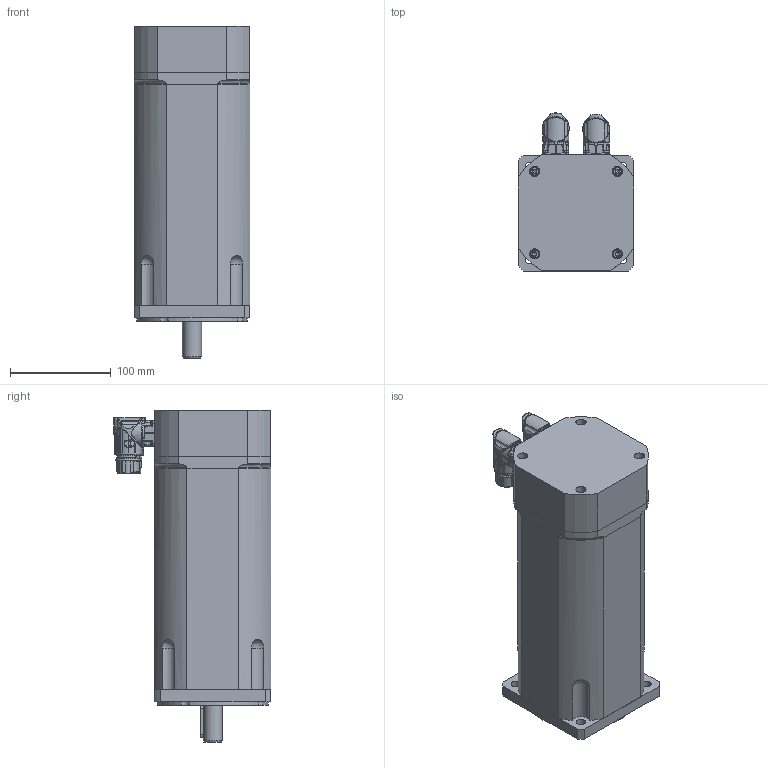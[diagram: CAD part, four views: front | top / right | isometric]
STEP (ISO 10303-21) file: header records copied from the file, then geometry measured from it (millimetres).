
FILE_DESCRIPTION(/* description */ (''),/* implementation_level */ '2;1');
FILE_NAME(/* name */ 'C:\Users\Public\Documents\Autodesk\Inventor LT 2014\Workspace\TG4\DSM5_4x_xxx7\DSM5_43_x1x7.stp',/* time_stamp */ '2016-03-14T13:47:07+01:00',/* author */ ('motion'),/* organization */ (''),/* preprocessor_version */ 'ST-DEVELOPER v15.2',/* originating_system */ 'Autodesk Inventor LT ',/* authorisation */ '');
FILE_SCHEMA (('AUTOMOTIVE_DESIGN { 1 0 10303 214 3 1 1 }'));
Products named in the file (1): DSM5_43_x1x7
Bounding box: 115 x 156.43 x 329.5 mm (x, y, z)
Volume: 3517760.2 mm3; surface area: 254627.3 mm2
Topology: 15 solids, 17 shells, 3085 faces, 7790 edges, 4689 vertices
Faces by surface type: cylinder 883, bspline 854, plane 596, torus 382, cone 250, sphere 120
Full cylindrical faces by diameter (mm): 1.2 x17, 2 x6, 2.15 x6, 2.224 x8, 2.5 x8, 2.7 x8, 3 x1, 4.5 x2, 4.917 x1, 5 x8, 5.5 x3, 5.9 x2, 6 x4, 8.5 x4, 9 x4, 10 x8, 11 x4, 15.2 x1, 19 x1, 19.1 x1, 21.6 x1, 22.5 x1, 23 x2, 24.4 x1, 25 x1, 42 x1, 52 x2, 90 x1
Entity records: 190329 total; most frequent: CARTESIAN_POINT 120176, ORIENTED_EDGE 14668, DIRECTION 12871, EDGE_CURVE 7334, AXIS2_PLACEMENT_3D 5525, VERTEX_POINT 4596, EDGE_LOOP 3476, ADVANCED_FACE 3081
